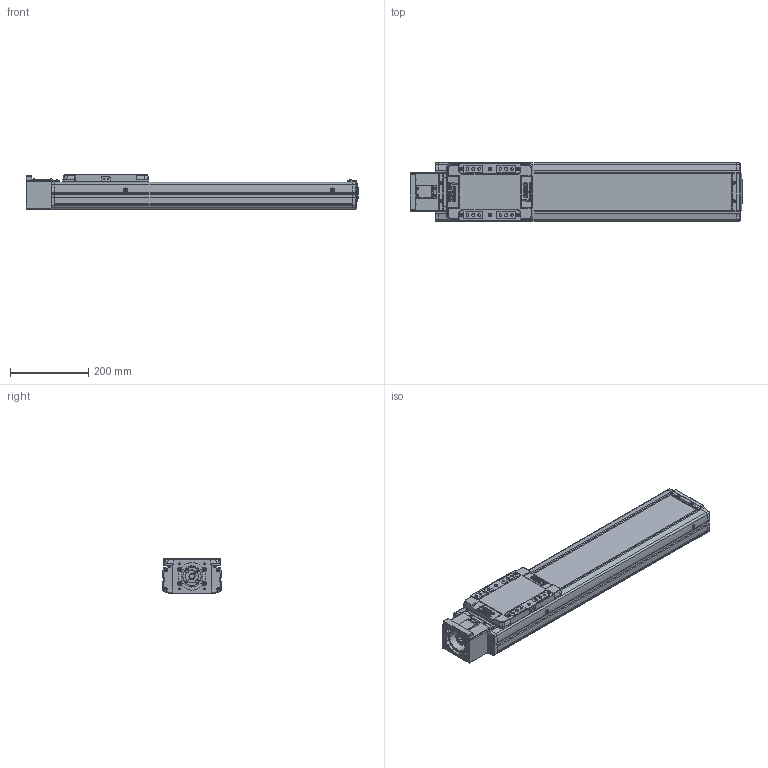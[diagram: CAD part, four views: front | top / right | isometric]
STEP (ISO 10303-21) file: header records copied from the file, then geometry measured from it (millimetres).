
FILE_DESCRIPTION(('STEP AP214'),'1');
FILE_NAME('Z:/Web/3D/SAN150/2013.04 (STP.)/SAN150ㅁㅁ-500S.stp','2013-05-07T11:24:25',(' '),(' '),'Spatial InterOp 3D',' ',' ');
FILE_SCHEMA(('automotive_design'));
Length unit declared in the file: millimetre
Products named in the file (75): SLBL-SAN150; SLCV-SAN150; FHCS M4.0 x 8.0; BHCS M4.0 x 10.0; SFX-SAN150; RRCV-SAN150; FRBL-SAN150; Spacer; RN15; FRCV-SAN150; Screw 20; BASE-SAN150-000L ; SUS COVER; 스크루 : Round - M5.0 x 6.0; BHCS M3.0 x 6.0; SSFX-SAN65; CPLCV-SAN65; SDWA47C(2); SDWA47C(3-1); SDWA47C(3); SDWA47C(1); SDWA47C(4); SDWA47C(5); MTHZ-SAN150-80
Bounding box: 849 x 150 x 90 mm (x, y, z)
Volume: 4965635.6 mm3; surface area: 949925.6 mm2
Topology: 75 solids, 75 shells, 2851 faces, 7417 edges, 4783 vertices
Faces by surface type: plane 1206, cylinder 1171, cone 373, sphere 56, bspline 29, torus 16
Entity records: 115194 total; most frequent: CARTESIAN_POINT 18776, DIRECTION 16143, ORIENTED_EDGE 14610, EDGE_CURVE 7305, AXIS2_PLACEMENT_3D 6089, VERTEX_POINT 4783, LINE 3965, VECTOR 3965
